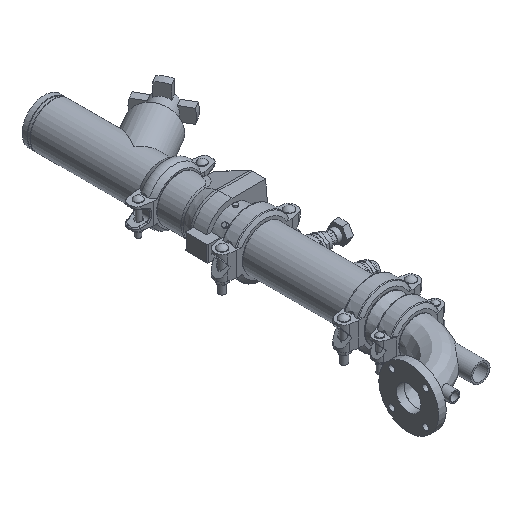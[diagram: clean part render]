
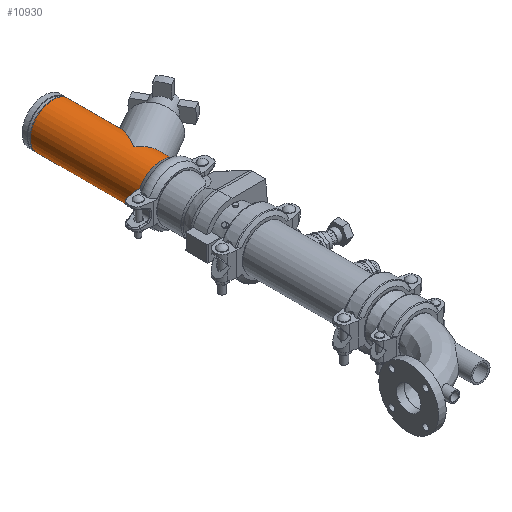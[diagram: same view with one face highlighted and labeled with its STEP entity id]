
A CAD part, isometric view. The second image highlights one B-rep face of the part: STEP entity #10930.
In plain terms, the highlighted cylindrical face has radius 70.65 mm (diameter 141.3 mm), a full revolution.
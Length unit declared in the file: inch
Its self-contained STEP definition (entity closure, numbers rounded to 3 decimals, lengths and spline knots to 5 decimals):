
#285=ELLIPSE('',#12025,5.563,2.7815);
#286=ELLIPSE('',#12026,3.2118,2.7815);
#287=ELLIPSE('',#12027,3.2118,2.7815);
#288=ELLIPSE('',#12028,5.563,2.7815);
#708=LINE('',#18214,#1509);
#709=LINE('',#18219,#1510);
#1509=VECTOR('',#14152,2.7815);
#1510=VECTOR('',#14157,2.7815);
#2035=CYLINDRICAL_SURFACE('',#12022,2.7815);
#2503=FACE_OUTER_BOUND('',#3123,.T.);
#3123=EDGE_LOOP('',(#8034,#8035,#8036,#8037,#8038,#8039,#8040,#8041,#8042,
#8043,#8044,#8045));
#3731=CIRCLE('',#12003,2.7815);
#3732=CIRCLE('',#12004,2.7815);
#3745=CIRCLE('',#12023,2.7815);
#3746=CIRCLE('',#12024,2.7815);
#4526=VERTEX_POINT('',#18172);
#4527=VERTEX_POINT('',#18173);
#4540=VERTEX_POINT('',#18209);
#4541=VERTEX_POINT('',#18210);
#4542=VERTEX_POINT('',#18213);
#4543=VERTEX_POINT('',#18215);
#4544=VERTEX_POINT('',#18217);
#4545=VERTEX_POINT('',#18220);
#5794=EDGE_CURVE('',#4526,#4527,#3731,.T.);
#5795=EDGE_CURVE('',#4527,#4526,#3732,.T.);
#5811=EDGE_CURVE('',#4540,#4541,#3745,.T.);
#5812=EDGE_CURVE('',#4541,#4540,#3746,.T.);
#5813=EDGE_CURVE('',#4541,#4542,#708,.T.);
#5814=EDGE_CURVE('',#4542,#4543,#285,.T.);
#5815=EDGE_CURVE('',#4543,#4544,#286,.T.);
#5816=EDGE_CURVE('',#4544,#4527,#709,.T.);
#5817=EDGE_CURVE('',#4544,#4545,#287,.T.);
#5818=EDGE_CURVE('',#4545,#4542,#288,.T.);
#8034=ORIENTED_EDGE('',*,*,#5811,.F.);
#8035=ORIENTED_EDGE('',*,*,#5812,.F.);
#8036=ORIENTED_EDGE('',*,*,#5813,.T.);
#8037=ORIENTED_EDGE('',*,*,#5814,.T.);
#8038=ORIENTED_EDGE('',*,*,#5815,.T.);
#8039=ORIENTED_EDGE('',*,*,#5816,.T.);
#8040=ORIENTED_EDGE('',*,*,#5795,.T.);
#8041=ORIENTED_EDGE('',*,*,#5794,.T.);
#8042=ORIENTED_EDGE('',*,*,#5816,.F.);
#8043=ORIENTED_EDGE('',*,*,#5817,.T.);
#8044=ORIENTED_EDGE('',*,*,#5818,.T.);
#8045=ORIENTED_EDGE('',*,*,#5813,.F.);
#10930=ADVANCED_FACE('',(#2503),#2035,.T.);
#12003=AXIS2_PLACEMENT_3D('',#18174,#14105,#14106);
#12004=AXIS2_PLACEMENT_3D('',#18175,#14107,#14108);
#12022=AXIS2_PLACEMENT_3D('',#18208,#14146,#14147);
#12023=AXIS2_PLACEMENT_3D('',#18211,#14148,#14149);
#12024=AXIS2_PLACEMENT_3D('',#18212,#14150,#14151);
#12025=AXIS2_PLACEMENT_3D('',#18216,#14153,#14154);
#12026=AXIS2_PLACEMENT_3D('',#18218,#14155,#14156);
#12027=AXIS2_PLACEMENT_3D('',#18221,#14158,#14159);
#12028=AXIS2_PLACEMENT_3D('',#18222,#14160,#14161);
#14105=DIRECTION('center_axis',(1.,0.,0.));
#14106=DIRECTION('ref_axis',(0.,0.,-1.));
#14107=DIRECTION('center_axis',(1.,0.,0.));
#14108=DIRECTION('ref_axis',(0.,0.,-1.));
#14146=DIRECTION('center_axis',(1.,0.,0.));
#14147=DIRECTION('ref_axis',(0.,1.,0.));
#14148=DIRECTION('center_axis',(1.,0.,0.));
#14149=DIRECTION('ref_axis',(0.,0.,-1.));
#14150=DIRECTION('center_axis',(1.,0.,0.));
#14151=DIRECTION('ref_axis',(0.,0.,-1.));
#14152=DIRECTION('',(-1.,0.,0.));
#14153=DIRECTION('center_axis',(0.5,0.866,0.));
#14154=DIRECTION('ref_axis',(-0.866,0.5,0.));
#14155=DIRECTION('center_axis',(-0.866,0.5,0.));
#14156=DIRECTION('ref_axis',(-0.5,-0.866,0.));
#14157=DIRECTION('',(-1.,0.,0.));
#14158=DIRECTION('center_axis',(-0.866,0.5,0.));
#14159=DIRECTION('ref_axis',(-0.5,-0.866,0.));
#14160=DIRECTION('center_axis',(0.5,0.866,0.));
#14161=DIRECTION('ref_axis',(-0.866,0.5,0.));
#18172=CARTESIAN_POINT('',(-6.875,2.7815,0.));
#18173=CARTESIAN_POINT('',(-6.875,-2.7815,0.));
#18174=CARTESIAN_POINT('Origin',(-6.875,0.,0.));
#18175=CARTESIAN_POINT('Origin',(-6.875,0.,0.));
#18208=CARTESIAN_POINT('Origin',(0.,0.,
0.));
#18209=CARTESIAN_POINT('',(6.875,2.7815,0.));
#18210=CARTESIAN_POINT('',(6.875,-2.7815,0.));
#18211=CARTESIAN_POINT('Origin',(6.875,0.,0.));
#18212=CARTESIAN_POINT('Origin',(6.875,0.,0.));
#18213=CARTESIAN_POINT('',(1.44546,-2.7815,0.));
#18214=CARTESIAN_POINT('',(0.,-2.7815,0.));
#18215=CARTESIAN_POINT('',(-3.37224,0.,-2.7815));
#18216=CARTESIAN_POINT('Origin',(-3.37224,0.,
0.));
#18217=CARTESIAN_POINT('',(-4.97814,-2.7815,0.));
#18218=CARTESIAN_POINT('Origin',(-3.37224,0.,
0.));
#18219=CARTESIAN_POINT('',(0.,-2.7815,0.));
#18220=CARTESIAN_POINT('',(-3.37224,0.,2.7815));
#18221=CARTESIAN_POINT('Origin',(-3.37224,0.,
0.));
#18222=CARTESIAN_POINT('Origin',(-3.37224,0.,
0.));
